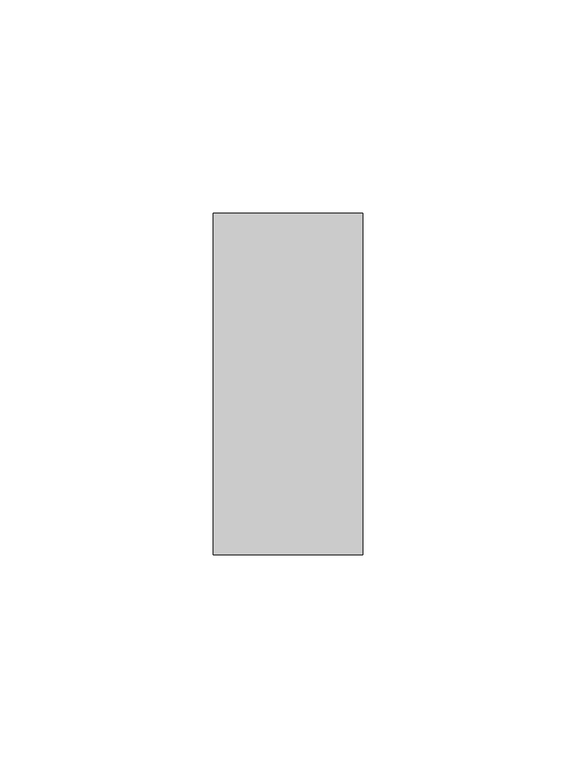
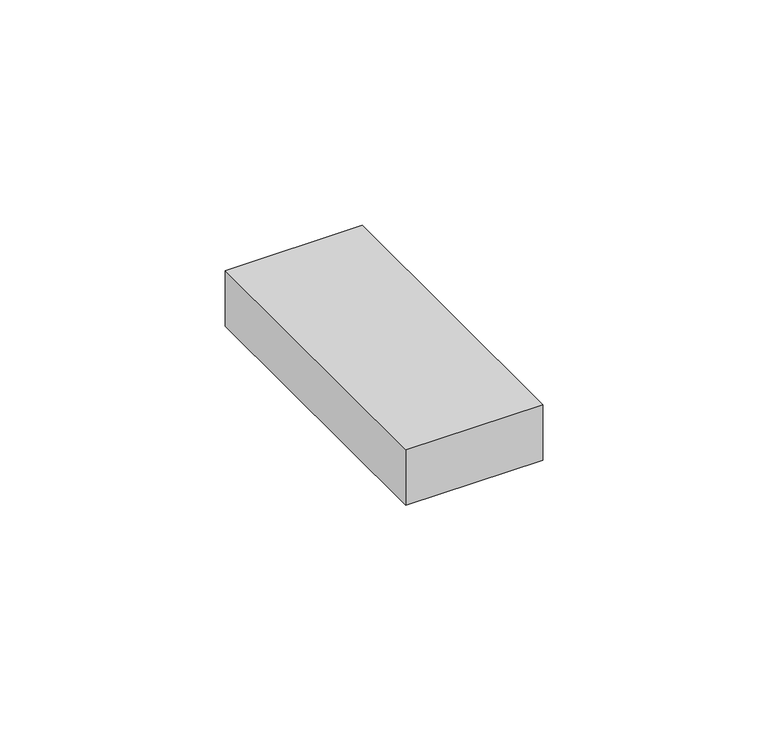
"""IFC4 building model written with IfcOpenShell, lengths in millimetres: duct fitting geometry, Заглушка торцевая - для односекционных кабель-каналов DLP - белый : 35/50х80."""

from ifc_helpers import new_model, si_unit, origin, origin_with_axes, place, context, project, spatial, polyline, outline, extrude, source, transform, mapped, element, save


def duct_fitting_d05112f4(model_context):
    return source(origin(), model_context, "Body", "SweptSolid", [
        extrude(outline(polyline([(17.5, 40.0), (17.5, -40.0), (-17.5, -40.0), (-17.5, 40.0), (17.5, 40.0)])), origin_with_axes(), (0.0, 0.0, 1.0), 15.0),
    ])


if __name__ == "__main__":
    model = new_model("IFC4")
    model_context = context("Model", 3, world=origin())
    ifc_project = project(units=[si_unit("LENGTHUNIT", "METRE", prefix="MILLI")], contexts=[model_context])
    site = spatial("IfcSite", under=ifc_project)
    building = spatial("IfcBuilding", under=site)
    placement = place(None, origin())
    duct_fitting_shape = duct_fitting_d05112f4(model_context)
    element("IfcDuctFitting", 1, ObjectType="Заглушка торцевая - для односекционных кабель-каналов DLP - белый : 35/50х80", at=placement, inside=building, context=model_context, shape_type="MappedRepresentation", body=[
        mapped(duct_fitting_shape, transform((0.0, 0.0, 0.0), x_axis=(1.0, 0.0, 0.0), y_axis=(0.0, 1.0, 0.0), z_axis=(0.0, 0.0, 1.0))),
    ])
    save(model, "model.ifc")
